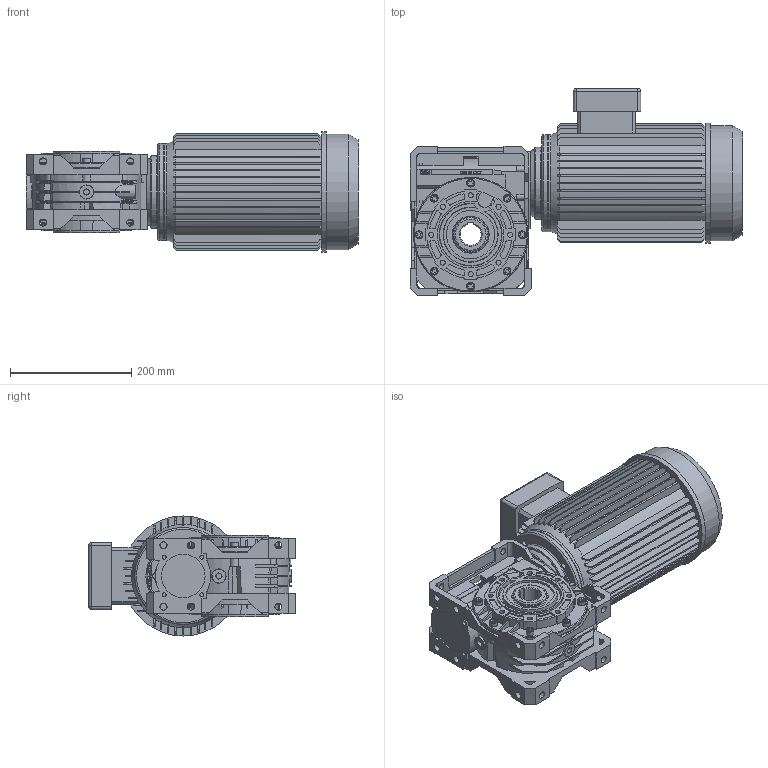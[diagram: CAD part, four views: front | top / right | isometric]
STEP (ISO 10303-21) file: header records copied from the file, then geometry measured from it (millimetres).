
FILE_DESCRIPTION( ( 'Unknown' ), '1' );
FILE_NAME( 'E:/services/configuratordownloads/customers/HYDROMEC/VSFQ/download/A2A5BDC4BE27EA4C95B2142F75B6D16A/STEP/A2A5BDC4BE27EA4C95B2142F75B6D16A.3d.stp', 'Unknown', ( 'Unknown' ), ( 'Unknown' ), 'PSStep 10.1', 'Unknown', ' ' );
FILE_SCHEMA( ( 'AUTOMOTIVE_DESIGN { 1 0 10303 214 1 1 1 1 }' ) );
Length unit declared in the file: millimetre
Products named in the file (12): Q858800
Bounding box: 547.5 x 341 x 198 mm (x, y, z)
Volume: 12965185.5 mm3; surface area: 872882.4 mm2
Topology: 12 solids, 34 shells, 1567 faces, 4119 edges, 2731 vertices
Faces by surface type: plane 1116, cylinder 237, cone 147, extrusion 42, torus 20, sphere 4, bspline 1
Full cylindrical faces by diameter (mm): 4.917 x12, 6.647 x8, 6.8 x8, 8.376 x24, 9 x4, 12.8 x8, 45 x1, 55 x2, 62 x1, 68 x1, 72 x1, 80 x2, 103 x1, 107 x1, 110 x2, 119 x1, 160 x2, 170.261 x1, 189 x1, 190 x1, 198 x1
Entity records: 61755 total; most frequent: CARTESIAN_POINT 11063, ORIENTED_EDGE 7742, DIRECTION 7680, EDGE_CURVE 3871, VERTEX_POINT 2653, VECTOR 2588, AXIS2_PLACEMENT_3D 2546, LINE 2546
